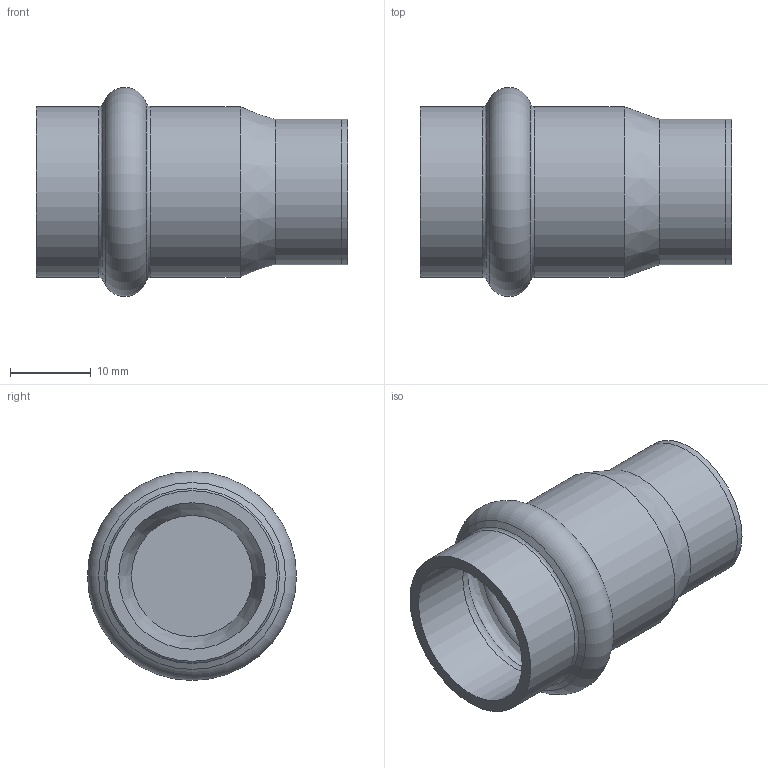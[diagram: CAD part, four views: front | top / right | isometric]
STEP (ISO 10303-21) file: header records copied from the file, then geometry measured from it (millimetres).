
FILE_DESCRIPTION((''),'2;1');
FILE_NAME('G:\Nirosan-Schmiedefeld\Technics\CAD\Bauteile VA\018\6930118(1).stp','2011-06-30T13:48:28',('herberg'),(''),'Autodesk Inventor 2009','Autodesk Inventor 2009','');
FILE_SCHEMA(('AUTOMOTIVE_DESIGN { 1 0 10303 214 1 1 1 1 }'));
Length unit declared in the file: millimetre
Products named in the file (3): 6930118(1); 6924318HM(1); D_6930118(1)
Assembly tree (2 placements, depth 2):
  6930118(1)
    6924318HM(1)
    D_6930118(1)
Bounding box: 38.6 x 25.89 x 25.89 mm (x, y, z)
Volume: 3868.5 mm3; surface area: 5610.8 mm2
Topology: 2 solids, 2 shells, 21 faces, 37 edges, 20 vertices
Faces by surface type: cylinder 7, cone 4, plane 4, bspline 3, torus 3
Full cylindrical faces by diameter (mm): 15 x1, 18 x2, 18.15 x2, 21.15 x2
Entity records: 663 total; most frequent: CARTESIAN_POINT 234, DIRECTION 86, AXIS2_PLACEMENT_3D 43, ORIENTED_EDGE 40, EDGE_LOOP 40, FACE_OUTER_BOUND 21, ADVANCED_FACE 21, VERTEX_POINT 20
